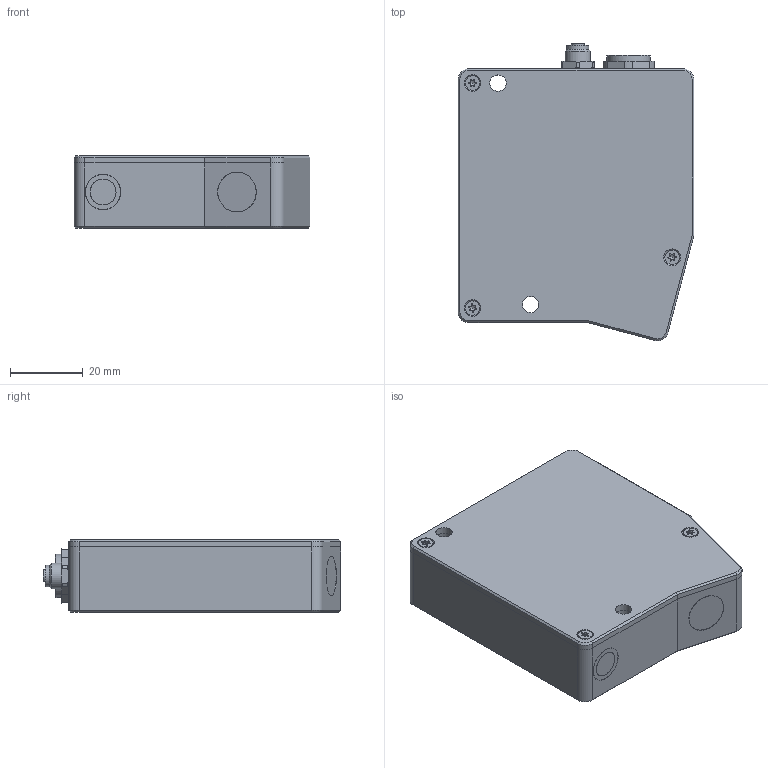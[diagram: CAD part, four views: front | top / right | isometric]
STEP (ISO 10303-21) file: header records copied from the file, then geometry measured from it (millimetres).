
FILE_DESCRIPTION(/* description */ (''),/* implementation_level */ '2;1');
FILE_NAME(/* name */ 'T:\E-Mail-Zeichnungen\STEP\L-LAS-LT-165-CL_0599_01.stp',/* time_stamp */ '2019-06-06T08:49:54+02:00',/* author */ ('simone.schrank'),/* organization */ (''),/* preprocessor_version */ 'ST-DEVELOPER v18',/* originating_system */ 'Autodesk Inventor 2020',/* authorisation */ '');
FILE_SCHEMA (('AUTOMOTIVE_DESIGN { 1 0 10303 214 3 1 1 }'));
Length unit declared in the file: millimetre
Products named in the file (1): Bauteil2
Bounding box: 65 x 81.96 x 20 mm (x, y, z)
Volume: 90111.3 mm3; surface area: 16616.7 mm2
Topology: 1 solids, 8 shells, 314 faces, 826 edges, 550 vertices
Faces by surface type: plane 137, cylinder 121, cone 47, torus 5, sphere 4
Full cylindrical faces by diameter (mm): 0.2 x3, 0.5 x4, 1 x8, 1.567 x2, 2 x3, 2.4 x3, 2.8 x4, 3.2 x4, 4 x3, 4.5 x4, 5 x1, 6 x4, 7 x2, 7.05 x1, 7.1 x1, 7.15 x1, 8.5 x1, 9.6 x1, 9.8 x1, 11 x1
Entity records: 10063 total; most frequent: CARTESIAN_POINT 2283, DIRECTION 1646, ORIENTED_EDGE 1618, EDGE_CURVE 809, AXIS2_PLACEMENT_3D 659, VERTEX_POINT 550, EDGE_LOOP 367, CIRCLE 344
